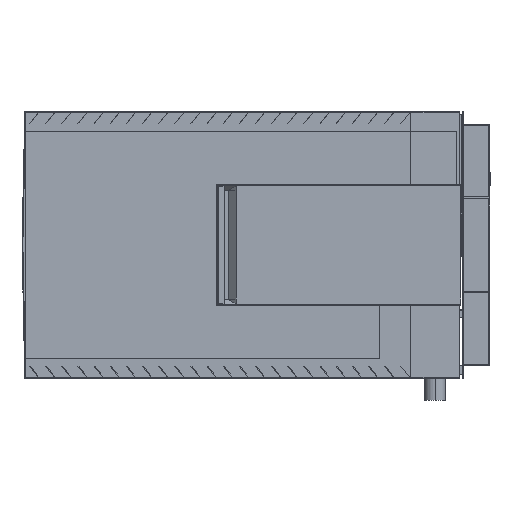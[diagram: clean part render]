
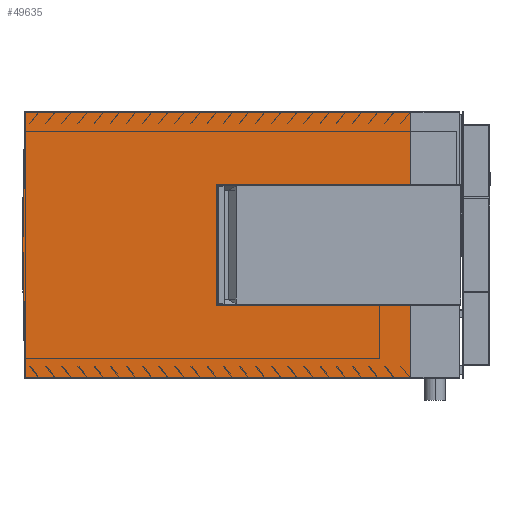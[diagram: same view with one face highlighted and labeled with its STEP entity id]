
A CAD part, left-side view. The second image highlights one B-rep face of the part: STEP entity #49635.
In plain terms, the highlighted planar face has unit normal (-1, 0, 0).
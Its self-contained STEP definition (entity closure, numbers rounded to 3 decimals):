
#209 = VECTOR ( 'NONE', #12805, 1000. ) ;
#3665 = CARTESIAN_POINT ( 'NONE',  ( -787.5, 1572., 0. ) ) ;
#4018 = ORIENTED_EDGE ( 'NONE', *, *, #4615, .F. ) ;
#4615 = EDGE_CURVE ( 'NONE', #54086, #52279, #22667, .T. ) ;
#6910 = CARTESIAN_POINT ( 'NONE',  ( -787.5, 175., 477. ) ) ;
#7861 = PLANE ( 'NONE',  #51401 ) ;
#12800 = VECTOR ( 'NONE', #46891, 1000. ) ;
#12805 = DIRECTION ( 'NONE',  ( 0., -1., 0. ) ) ;
#12892 = DIRECTION ( 'NONE',  ( 0., 0., -1. ) ) ;
#14819 = VERTEX_POINT ( 'NONE', #3665 ) ;
#16783 = ORIENTED_EDGE ( 'NONE', *, *, #58967, .T. ) ;
#17005 = VECTOR ( 'NONE', #43433, 1000. ) ;
#21516 = ORIENTED_EDGE ( 'NONE', *, *, #29332, .T. ) ;
#22393 = CARTESIAN_POINT ( 'NONE',  ( -787.5, 1562.062, -477. ) ) ;
#22667 = LINE ( 'NONE', #60942, #50306 ) ;
#23519 = LINE ( 'NONE', #57107, #209 ) ;
#24707 = EDGE_LOOP ( 'NONE', ( #21516, #29781, #16783, #4018, #28918 ) ) ;
#28144 = CARTESIAN_POINT ( 'NONE',  ( -787.5, 1562.088, 475.752 ) ) ;
#28330 = CARTESIAN_POINT ( 'NONE',  ( -787.5, 1581.956, 477.834 ) ) ;
#28918 = ORIENTED_EDGE ( 'NONE', *, *, #50817, .F. ) ;
#29332 = EDGE_CURVE ( 'NONE', #51176, #14819, #47624, .T. ) ;
#29781 = ORIENTED_EDGE ( 'NONE', *, *, #45489, .T. ) ;
#33065 = LINE ( 'NONE', #38387, #17005 ) ;
#33116 = CARTESIAN_POINT ( 'NONE',  ( -787.5, 175., -477. ) ) ;
#38387 = CARTESIAN_POINT ( 'NONE',  ( -787.5, 1622., -477. ) ) ;
#40301 = VERTEX_POINT ( 'NONE', #22393 ) ;
#43433 = DIRECTION ( 'NONE',  ( 0., -1., 0. ) ) ;
#45489 = EDGE_CURVE ( 'NONE', #14819, #40301, #59179, .T. ) ;
#46283 = CARTESIAN_POINT ( 'NONE',  ( -787.5, 1622., 477. ) ) ;
#46578 = FACE_OUTER_BOUND ( 'NONE', #24707, .T. ) ;
#46891 = DIRECTION ( 'NONE',  ( 0., -0.021, -1. ) ) ;
#47302 = DIRECTION ( 'NONE',  ( 0., 0.021, -1. ) ) ;
#47624 = LINE ( 'NONE', #28144, #50240 ) ;
#48191 = CARTESIAN_POINT ( 'NONE',  ( -787.5, 1562.062, 477. ) ) ;
#49635 = ADVANCED_FACE ( 'NONE', ( #46578 ), #7861, .F. ) ;
#50240 = VECTOR ( 'NONE', #47302, 1000. ) ;
#50306 = VECTOR ( 'NONE', #12892, 1000. ) ;
#50817 = EDGE_CURVE ( 'NONE', #51176, #54086, #23519, .T. ) ;
#51176 = VERTEX_POINT ( 'NONE', #48191 ) ;
#51401 = AXIS2_PLACEMENT_3D ( 'NONE', #46283, #55963, #60038 ) ;
#52279 = VERTEX_POINT ( 'NONE', #33116 ) ;
#54086 = VERTEX_POINT ( 'NONE', #6910 ) ;
#55963 = DIRECTION ( 'NONE',  ( 1., 0., 0. ) ) ;
#57107 = CARTESIAN_POINT ( 'NONE',  ( -787.5, 1622., 477. ) ) ;
#58967 = EDGE_CURVE ( 'NONE', #40301, #52279, #33065, .T. ) ;
#59179 = LINE ( 'NONE', #28330, #12800 ) ;
#60038 = DIRECTION ( 'NONE',  ( 0., 0., 1. ) ) ;
#60942 = CARTESIAN_POINT ( 'NONE',  ( -787.5, 175., 477. ) ) ;
